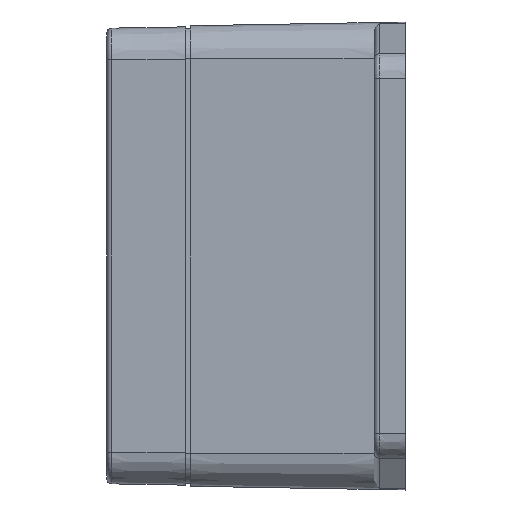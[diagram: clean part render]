
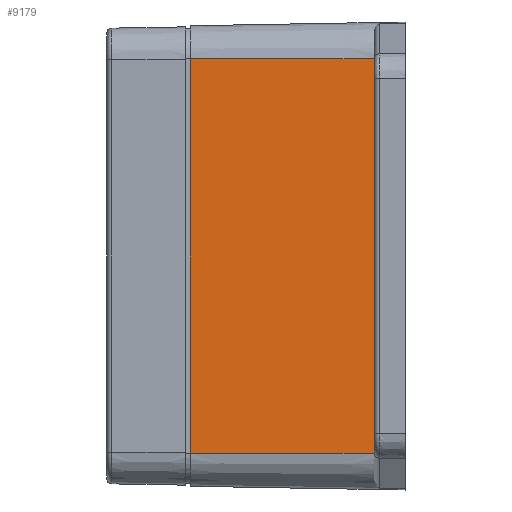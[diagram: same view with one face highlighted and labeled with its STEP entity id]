
A CAD part, left-side view. The second image highlights one B-rep face of the part: STEP entity #9179.
In plain terms, the highlighted planar face has unit normal (-1, 0.018, 0).
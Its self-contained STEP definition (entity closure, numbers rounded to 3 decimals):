
#1369 = ORIENTED_EDGE ( 'NONE', *, *, #33247, .T. ) ;
#3240 = CARTESIAN_POINT ( 'NONE',  ( -57.667, -1., 38.7 ) ) ;
#3465 = ORIENTED_EDGE ( 'NONE', *, *, #31989, .T. ) ;
#5232 = CARTESIAN_POINT ( 'NONE',  ( -58.298, -37.1, 38.7 ) ) ;
#7042 = CARTESIAN_POINT ( 'NONE',  ( -57.667, -1., 38.7 ) ) ;
#7492 = EDGE_LOOP ( 'NONE', ( #1369, #3465, #35210, #28274 ) ) ;
#7685 = VERTEX_POINT ( 'NONE', #34296 ) ;
#7851 = LINE ( 'NONE', #13266, #31404 ) ;
#8344 = LINE ( 'NONE', #12238, #28618 ) ;
#9179 = ADVANCED_FACE ( 'NONE', ( #18759 ), #30193, .T. ) ;
#10883 = CARTESIAN_POINT ( 'NONE',  ( -57.65, 0., 38.7 ) ) ;
#11666 = VERTEX_POINT ( 'NONE', #3240 ) ;
#12238 = CARTESIAN_POINT ( 'NONE',  ( -57.65, 0., 38.7 ) ) ;
#13266 = CARTESIAN_POINT ( 'NONE',  ( -58.298, -37.1, 38.7 ) ) ;
#14520 = DIRECTION ( 'NONE',  ( 0.017, 1., 0. ) ) ;
#14639 = VERTEX_POINT ( 'NONE', #22175 ) ;
#15271 = DIRECTION ( 'NONE',  ( 0., 0., -1. ) ) ;
#18759 = FACE_OUTER_BOUND ( 'NONE', #7492, .T. ) ;
#19012 = LINE ( 'NONE', #7042, #33964 ) ;
#19884 = DIRECTION ( 'NONE',  ( -1., 0.017, 0. ) ) ;
#22175 = CARTESIAN_POINT ( 'NONE',  ( -57.667, -1., -38.7 ) ) ;
#23571 = EDGE_CURVE ( 'NONE', #7685, #14639, #32953, .T. ) ;
#25141 = DIRECTION ( 'NONE',  ( -0.017, -1., 0. ) ) ;
#27111 = AXIS2_PLACEMENT_3D ( 'NONE', #10883, #19884, #25141 ) ;
#28274 = ORIENTED_EDGE ( 'NONE', *, *, #28914, .F. ) ;
#28389 = VECTOR ( 'NONE', #30507, 1000. ) ;
#28618 = VECTOR ( 'NONE', #14520, 1000. ) ;
#28914 = EDGE_CURVE ( 'NONE', #31353, #7685, #7851, .T. ) ;
#30127 = CARTESIAN_POINT ( 'NONE',  ( -57.65, 0., -38.7 ) ) ;
#30193 = PLANE ( 'NONE',  #27111 ) ;
#30507 = DIRECTION ( 'NONE',  ( 0.017, 1., 0. ) ) ;
#31353 = VERTEX_POINT ( 'NONE', #5232 ) ;
#31404 = VECTOR ( 'NONE', #33146, 1000. ) ;
#31989 = EDGE_CURVE ( 'NONE', #11666, #14639, #19012, .T. ) ;
#32953 = LINE ( 'NONE', #30127, #28389 ) ;
#33146 = DIRECTION ( 'NONE',  ( 0., 0., -1. ) ) ;
#33247 = EDGE_CURVE ( 'NONE', #31353, #11666, #8344, .T. ) ;
#33964 = VECTOR ( 'NONE', #15271, 1000. ) ;
#34296 = CARTESIAN_POINT ( 'NONE',  ( -58.298, -37.1, -38.7 ) ) ;
#35210 = ORIENTED_EDGE ( 'NONE', *, *, #23571, .F. ) ;
